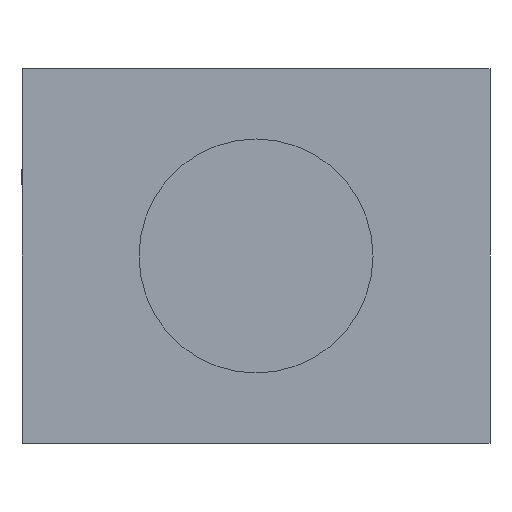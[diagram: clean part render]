
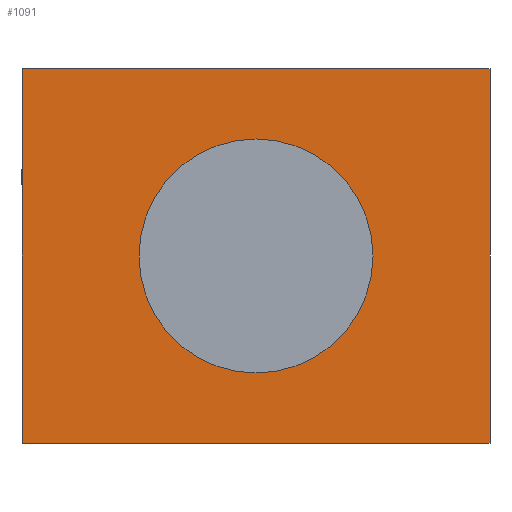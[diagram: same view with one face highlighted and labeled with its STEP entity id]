
A CAD part, front view. The second image highlights one B-rep face of the part: STEP entity #1091.
In plain terms, the highlighted planar face has unit normal (0, -1, 0).
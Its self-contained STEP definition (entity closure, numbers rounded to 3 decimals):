
#11 = DIRECTION ( 'NONE',  ( 0., 0., -1. ) ) ;
#24 = VERTEX_POINT ( 'NONE', #507 ) ;
#28 = CARTESIAN_POINT ( 'NONE',  ( 0., -11., 4. ) ) ;
#87 = CARTESIAN_POINT ( 'NONE',  ( 5., -11., 0. ) ) ;
#97 = ORIENTED_EDGE ( 'NONE', *, *, #271, .T. ) ;
#106 = AXIS2_PLACEMENT_3D ( 'NONE', #28, #134, #11 ) ;
#122 = CARTESIAN_POINT ( 'NONE',  ( -5., -11., 0. ) ) ;
#128 = FACE_OUTER_BOUND ( 'NONE', #920, .T. ) ;
#134 = DIRECTION ( 'NONE',  ( 0., -1., 0. ) ) ;
#136 = CARTESIAN_POINT ( 'NONE',  ( 0., -11., 4. ) ) ;
#162 = VERTEX_POINT ( 'NONE', #122 ) ;
#163 = LINE ( 'NONE', #543, #344 ) ;
#167 = DIRECTION ( 'NONE',  ( 0., -1., 0. ) ) ;
#176 = DIRECTION ( 'NONE',  ( 0., 0., -1. ) ) ;
#177 = VECTOR ( 'NONE', #704, 1000. ) ;
#194 = EDGE_CURVE ( 'NONE', #162, #333, #163, .T. ) ;
#203 = CARTESIAN_POINT ( 'NONE',  ( 0., -11., 1.5 ) ) ;
#208 = ORIENTED_EDGE ( 'NONE', *, *, #477, .F. ) ;
#209 = ORIENTED_EDGE ( 'NONE', *, *, #1033, .F. ) ;
#226 = LINE ( 'NONE', #1003, #1032 ) ;
#251 = CARTESIAN_POINT ( 'NONE',  ( -5., -11., 8. ) ) ;
#257 = FACE_BOUND ( 'NONE', #518, .T. ) ;
#271 = EDGE_CURVE ( 'NONE', #859, #162, #764, .T. ) ;
#313 = CARTESIAN_POINT ( 'NONE',  ( -5., -11., 8. ) ) ;
#316 = DIRECTION ( 'NONE',  ( 0., 0., -1. ) ) ;
#333 = VERTEX_POINT ( 'NONE', #87 ) ;
#344 = VECTOR ( 'NONE', #900, 1000. ) ;
#385 = DIRECTION ( 'NONE',  ( 0., 0., 1. ) ) ;
#412 = CARTESIAN_POINT ( 'NONE',  ( 5., -11., 8. ) ) ;
#435 = PLANE ( 'NONE',  #555 ) ;
#476 = DIRECTION ( 'NONE',  ( 0., 1., 0. ) ) ;
#477 = EDGE_CURVE ( 'NONE', #24, #682, #646, .T. ) ;
#507 = CARTESIAN_POINT ( 'NONE',  ( 0., -11., 6.5 ) ) ;
#518 = EDGE_LOOP ( 'NONE', ( #209, #208 ) ) ;
#543 = CARTESIAN_POINT ( 'NONE',  ( -5., -11., 0. ) ) ;
#555 = AXIS2_PLACEMENT_3D ( 'NONE', #710, #476, #385 ) ;
#646 = CIRCLE ( 'NONE', #106, 2.5 ) ;
#653 = ORIENTED_EDGE ( 'NONE', *, *, #1007, .F. ) ;
#682 = VERTEX_POINT ( 'NONE', #203 ) ;
#704 = DIRECTION ( 'NONE',  ( 1., 0., 0. ) ) ;
#706 = VECTOR ( 'NONE', #316, 1000. ) ;
#710 = CARTESIAN_POINT ( 'NONE',  ( -5., -11., 8. ) ) ;
#729 = CARTESIAN_POINT ( 'NONE',  ( -5., -11., 8. ) ) ;
#730 = VERTEX_POINT ( 'NONE', #412 ) ;
#764 = LINE ( 'NONE', #729, #706 ) ;
#839 = LINE ( 'NONE', #313, #177 ) ;
#846 = ORIENTED_EDGE ( 'NONE', *, *, #898, .F. ) ;
#859 = VERTEX_POINT ( 'NONE', #251 ) ;
#898 = EDGE_CURVE ( 'NONE', #859, #730, #839, .T. ) ;
#900 = DIRECTION ( 'NONE',  ( 1., 0., 0. ) ) ;
#908 = ORIENTED_EDGE ( 'NONE', *, *, #194, .T. ) ;
#920 = EDGE_LOOP ( 'NONE', ( #908, #653, #846, #97 ) ) ;
#1000 = AXIS2_PLACEMENT_3D ( 'NONE', #136, #167, #176 ) ;
#1003 = CARTESIAN_POINT ( 'NONE',  ( 5., -11., 8. ) ) ;
#1007 = EDGE_CURVE ( 'NONE', #730, #333, #226, .T. ) ;
#1032 = VECTOR ( 'NONE', #1069, 1000. ) ;
#1033 = EDGE_CURVE ( 'NONE', #682, #24, #1040, .T. ) ;
#1040 = CIRCLE ( 'NONE', #1000, 2.5 ) ;
#1069 = DIRECTION ( 'NONE',  ( 0., 0., -1. ) ) ;
#1091 = ADVANCED_FACE ( 'NONE', ( #257, #128 ), #435, .F. ) ;
